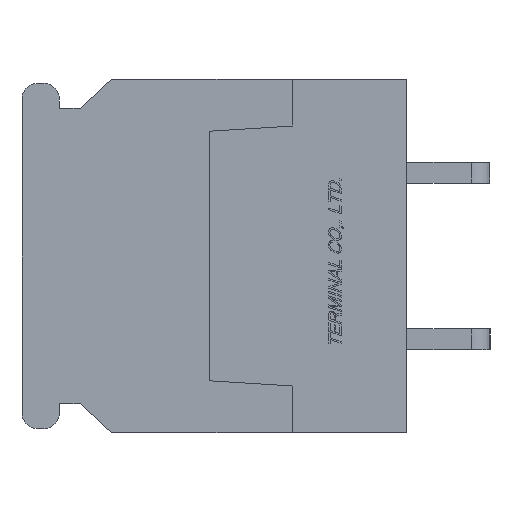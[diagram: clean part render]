
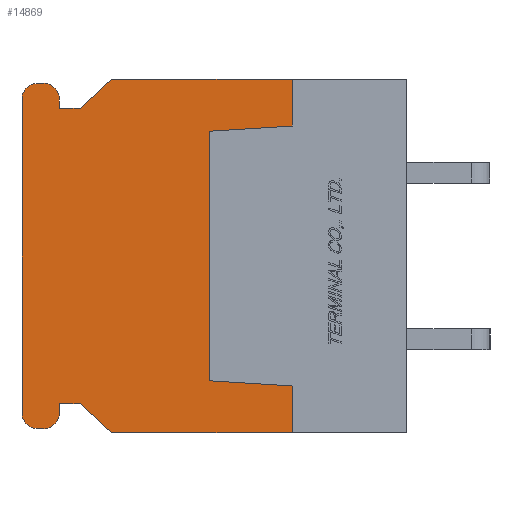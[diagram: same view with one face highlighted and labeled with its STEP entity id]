
A CAD part, left-side view. The second image highlights one B-rep face of the part: STEP entity #14869.
In plain terms, the highlighted planar face has unit normal (-1, 0, 0).
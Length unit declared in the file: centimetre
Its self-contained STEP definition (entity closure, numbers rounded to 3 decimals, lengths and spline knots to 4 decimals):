
#895=CIRCLE('',#15958,0.075);
#896=CIRCLE('',#15961,0.075);
#897=CIRCLE('',#15964,0.075);
#898=CIRCLE('',#15967,0.075);
#2023=VERTEX_POINT('',#23294);
#2024=VERTEX_POINT('',#23296);
#2025=VERTEX_POINT('',#23300);
#2026=VERTEX_POINT('',#23304);
#2027=VERTEX_POINT('',#23308);
#2028=VERTEX_POINT('',#23312);
#2047=VERTEX_POINT('',#23362);
#2048=VERTEX_POINT('',#23366);
#2049=VERTEX_POINT('',#23370);
#2050=VERTEX_POINT('',#23374);
#2051=VERTEX_POINT('',#23378);
#2052=VERTEX_POINT('',#23382);
#2053=VERTEX_POINT('',#23386);
#2054=VERTEX_POINT('',#23390);
#2055=VERTEX_POINT('',#23394);
#2056=VERTEX_POINT('',#23398);
#2057=VERTEX_POINT('',#23402);
#2058=VERTEX_POINT('',#23406);
#2059=VERTEX_POINT('',#23410);
#2060=VERTEX_POINT('',#23414);
#3600=VECTOR('',#18607,1.);
#3603=VECTOR('',#18611,1.);
#3605=VECTOR('',#18614,1.);
#3607=VECTOR('',#18617,1.);
#3609=VECTOR('',#18620,1.);
#3630=VECTOR('',#18655,1.);
#3632=VECTOR('',#18658,1.);
#3634=VECTOR('',#18661,1.);
#3636=VECTOR('',#18664,1.);
#3639=VECTOR('',#18672,1.);
#3642=VECTOR('',#18680,1.);
#3645=VECTOR('',#18688,1.);
#3648=VECTOR('',#18696,1.);
#3650=VECTOR('',#18699,1.);
#3652=VECTOR('',#18702,1.);
#3653=VECTOR('',#18704,1.);
#5252=LINE('',#23295,#3600);
#5255=LINE('',#23301,#3603);
#5257=LINE('',#23305,#3605);
#5259=LINE('',#23309,#3607);
#5261=LINE('',#23313,#3609);
#5282=LINE('',#23363,#3630);
#5284=LINE('',#23367,#3632);
#5286=LINE('',#23371,#3634);
#5288=LINE('',#23375,#3636);
#5291=LINE('',#23383,#3639);
#5294=LINE('',#23391,#3642);
#5297=LINE('',#23399,#3645);
#5300=LINE('',#23407,#3648);
#5302=LINE('',#23411,#3650);
#5304=LINE('',#23415,#3652);
#5305=LINE('',#23417,#3653);
#7366=EDGE_CURVE('',#2024,#2023,#5252,.T.);
#7369=EDGE_CURVE('',#2023,#2025,#5255,.T.);
#7371=EDGE_CURVE('',#2025,#2026,#5257,.T.);
#7373=EDGE_CURVE('',#2026,#2027,#5259,.T.);
#7375=EDGE_CURVE('',#2027,#2028,#5261,.T.);
#7400=EDGE_CURVE('',#2047,#2028,#5282,.T.);
#7402=EDGE_CURVE('',#2048,#2047,#5284,.T.);
#7404=EDGE_CURVE('',#2049,#2048,#5286,.T.);
#7406=EDGE_CURVE('',#2050,#2049,#5288,.T.);
#7408=EDGE_CURVE('',#2051,#2050,#895,.T.);
#7410=EDGE_CURVE('',#2052,#2051,#5291,.T.);
#7412=EDGE_CURVE('',#2053,#2052,#896,.T.);
#7414=EDGE_CURVE('',#2054,#2053,#5294,.T.);
#7416=EDGE_CURVE('',#2055,#2054,#897,.T.);
#7418=EDGE_CURVE('',#2056,#2055,#5297,.T.);
#7420=EDGE_CURVE('',#2057,#2056,#898,.T.);
#7422=EDGE_CURVE('',#2058,#2057,#5300,.T.);
#7424=EDGE_CURVE('',#2059,#2058,#5302,.T.);
#7426=EDGE_CURVE('',#2060,#2059,#5304,.T.);
#7427=EDGE_CURVE('',#2024,#2060,#5305,.T.);
#11371=ORIENTED_EDGE('',*,*,#7375,.T.);
#11372=ORIENTED_EDGE('',*,*,#7400,.F.);
#11373=ORIENTED_EDGE('',*,*,#7402,.F.);
#11374=ORIENTED_EDGE('',*,*,#7404,.F.);
#11375=ORIENTED_EDGE('',*,*,#7406,.F.);
#11376=ORIENTED_EDGE('',*,*,#7408,.F.);
#11377=ORIENTED_EDGE('',*,*,#7410,.F.);
#11378=ORIENTED_EDGE('',*,*,#7412,.F.);
#11379=ORIENTED_EDGE('',*,*,#7414,.F.);
#11380=ORIENTED_EDGE('',*,*,#7416,.F.);
#11381=ORIENTED_EDGE('',*,*,#7418,.F.);
#11382=ORIENTED_EDGE('',*,*,#7420,.F.);
#11383=ORIENTED_EDGE('',*,*,#7422,.F.);
#11384=ORIENTED_EDGE('',*,*,#7424,.F.);
#11385=ORIENTED_EDGE('',*,*,#7426,.F.);
#11386=ORIENTED_EDGE('',*,*,#7427,.F.);
#11387=ORIENTED_EDGE('',*,*,#7366,.T.);
#11388=ORIENTED_EDGE('',*,*,#7369,.T.);
#11389=ORIENTED_EDGE('',*,*,#7371,.T.);
#11390=ORIENTED_EDGE('',*,*,#7373,.T.);
#13093=EDGE_LOOP('',(#11371,#11372,#11373,#11374,#11375,#11376,#11377,#11378,
#11379,#11380,#11381,#11382,#11383,#11384,#11385,#11386,#11387,#11388,#11389,
#11390));
#14021=FACE_BOUND('',#13093,.T.);
#14869=ADVANCED_FACE('',(#14021),#25345,.F.);
#15958=AXIS2_PLACEMENT_3D('',#23379,#18668,#18669);
#15961=AXIS2_PLACEMENT_3D('',#23387,#18676,#18677);
#15964=AXIS2_PLACEMENT_3D('',#23395,#18684,#18685);
#15967=AXIS2_PLACEMENT_3D('',#23403,#18692,#18693);
#15972=AXIS2_PLACEMENT_3D('',#23418,#18705,$);
#18607=DIRECTION('',(0.,0.,1.));
#18611=DIRECTION('',(0.,0.998,0.062));
#18614=DIRECTION('',(0.,0.,1.));
#18617=DIRECTION('',(0.,-0.998,0.062));
#18620=DIRECTION('',(0.,0.,1.));
#18655=DIRECTION('',(0.,-1.,0.));
#18658=DIRECTION('',(0.,-0.731,0.682));
#18661=DIRECTION('',(0.,-1.,0.));
#18664=DIRECTION('',(0.,0.,-1.));
#18668=DIRECTION('',(1.,0.,0.));
#18669=DIRECTION('',(0.,0.,-0.075));
#18672=DIRECTION('',(0.,-1.,0.));
#18676=DIRECTION('',(1.,0.,0.));
#18677=DIRECTION('',(0.,0.,-0.075));
#18680=DIRECTION('',(0.,0.,1.));
#18684=DIRECTION('',(1.,0.,0.));
#18685=DIRECTION('',(0.,0.,-0.075));
#18688=DIRECTION('',(0.,1.,0.));
#18692=DIRECTION('',(1.,0.,0.));
#18693=DIRECTION('',(0.,0.,-0.075));
#18696=DIRECTION('',(0.,0.,-1.));
#18699=DIRECTION('',(0.,1.,0.));
#18702=DIRECTION('',(0.,0.731,0.682));
#18704=DIRECTION('',(0.,1.,0.));
#18705=DIRECTION('',(1.,0.,0.));
#23294=CARTESIAN_POINT('',(0.,0.55,-0.625));
#23295=CARTESIAN_POINT('',(0.,0.55,-0.3687));
#23296=CARTESIAN_POINT('',(0.,0.55,-0.85));
#23300=CARTESIAN_POINT('',(0.,0.95,-0.6));
#23301=CARTESIAN_POINT('',(0.,0.8629,-0.6054));
#23304=CARTESIAN_POINT('',(0.,0.95,0.6));
#23305=CARTESIAN_POINT('',(0.,0.95,0.));
#23308=CARTESIAN_POINT('',(0.,0.55,0.625));
#23309=CARTESIAN_POINT('',(0.,0.8629,0.6054));
#23312=CARTESIAN_POINT('',(0.,0.55,0.85));
#23313=CARTESIAN_POINT('',(0.,0.55,0.3687));
#23362=CARTESIAN_POINT('',(0.,1.42,0.85));
#23363=CARTESIAN_POINT('',(0.,1.42,0.85));
#23366=CARTESIAN_POINT('',(0.,1.57,0.71));
#23367=CARTESIAN_POINT('',(0.,1.57,0.71));
#23370=CARTESIAN_POINT('',(0.,1.67,0.71));
#23371=CARTESIAN_POINT('',(0.,1.67,0.71));
#23374=CARTESIAN_POINT('',(0.,1.67,0.755));
#23375=CARTESIAN_POINT('',(0.,1.67,0.755));
#23378=CARTESIAN_POINT('',(0.,1.745,0.83));
#23379=CARTESIAN_POINT('',(0.,1.745,0.755));
#23382=CARTESIAN_POINT('',(0.,1.775,0.83));
#23383=CARTESIAN_POINT('',(0.,1.775,0.83));
#23386=CARTESIAN_POINT('',(0.,1.85,0.755));
#23387=CARTESIAN_POINT('',(0.,1.775,0.755));
#23390=CARTESIAN_POINT('',(0.,1.85,-0.755));
#23391=CARTESIAN_POINT('',(0.,1.85,-0.755));
#23394=CARTESIAN_POINT('',(0.,1.775,-0.83));
#23395=CARTESIAN_POINT('',(0.,1.775,-0.755));
#23398=CARTESIAN_POINT('',(0.,1.745,-0.83));
#23399=CARTESIAN_POINT('',(0.,1.745,-0.83));
#23402=CARTESIAN_POINT('',(0.,1.67,-0.755));
#23403=CARTESIAN_POINT('',(0.,1.745,-0.755));
#23406=CARTESIAN_POINT('',(0.,1.67,-0.71));
#23407=CARTESIAN_POINT('',(0.,1.67,-0.71));
#23410=CARTESIAN_POINT('',(0.,1.57,-0.71));
#23411=CARTESIAN_POINT('',(0.,1.57,-0.71));
#23414=CARTESIAN_POINT('',(0.,1.42,-0.85));
#23415=CARTESIAN_POINT('',(0.,1.42,-0.85));
#23417=CARTESIAN_POINT('',(0.,0.,-0.85));
#23418=CARTESIAN_POINT('',(0.,0.9383,0.));
#25345=PLANE('',#15972);
